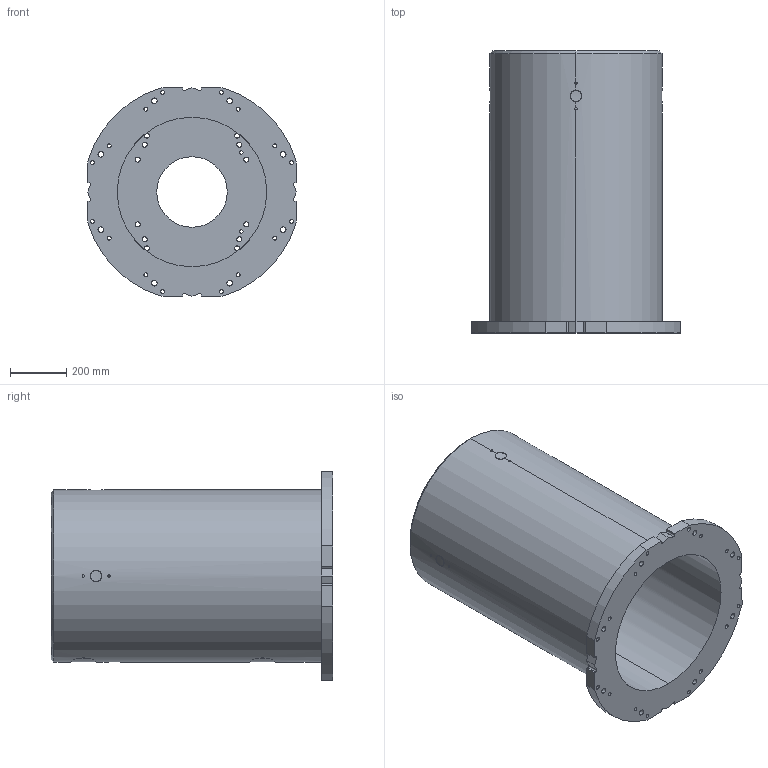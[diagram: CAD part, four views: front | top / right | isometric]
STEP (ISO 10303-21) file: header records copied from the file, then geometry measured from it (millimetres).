
FILE_DESCRIPTION (( 'STEP AP214' ), '1' );
FILE_NAME ('M-1000.STEP', '2025-12-09T14:44:53', ( '' ), ( '' ), 'SwSTEP 2.0', 'SolidWorks 2022', '' );
FILE_SCHEMA (( 'AUTOMOTIVE_DESIGN' ));
Length unit declared in the file: millimetre
Products named in the file (1): M-1000
Bounding box: 740 x 1000 x 740 mm (x, y, z)
Volume: 84050155.1 mm3; surface area: 4437414.8 mm2
Topology: 1 solids, 1 shells, 219 faces, 609 edges, 402 vertices
Faces by surface type: cylinder 161, plane 28, bspline 24, cone 6
Entity records: 12963 total; most frequent: CARTESIAN_POINT 6398, ORIENTED_EDGE 1210, DIRECTION 1049, EDGE_CURVE 605, AXIS2_PLACEMENT_3D 410, VERTEX_POINT 402, EDGE_LOOP 311, VECTOR 229
